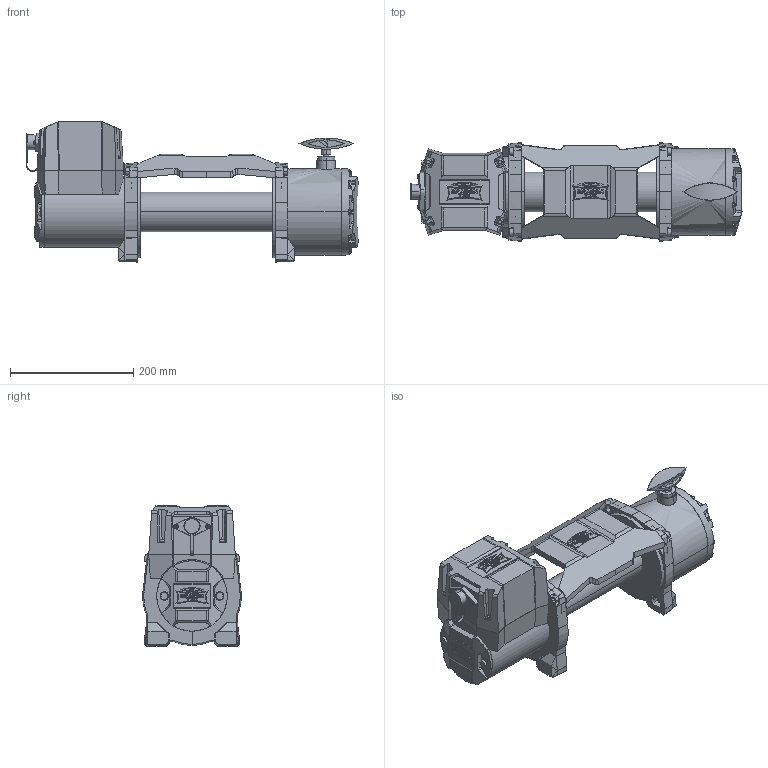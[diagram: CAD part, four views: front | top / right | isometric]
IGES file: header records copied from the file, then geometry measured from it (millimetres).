
Global section: file name: C:\Users\MB\Documents\DRAGON\MAVERIC lifting 2023\LINIA 2\modele dla Agnieszki Dragon\MAVERICK DWM 13000 HD S.igs; native system: Rhinoceros ( May 22 2017 ); preprocessor: Trout Lake IGES 012 May 22 2017; date: 231027.051341; units: millimetre
Bounding box: 537.89 x 159.79 x 227.29 mm (x, y, z)
Surface area: 655557 mm2 (no closed solid volume)
Topology: 0 solids, 0 shells, 2167 faces, 23189 edges, 23030 vertices
Faces by surface type: bspline 2167
